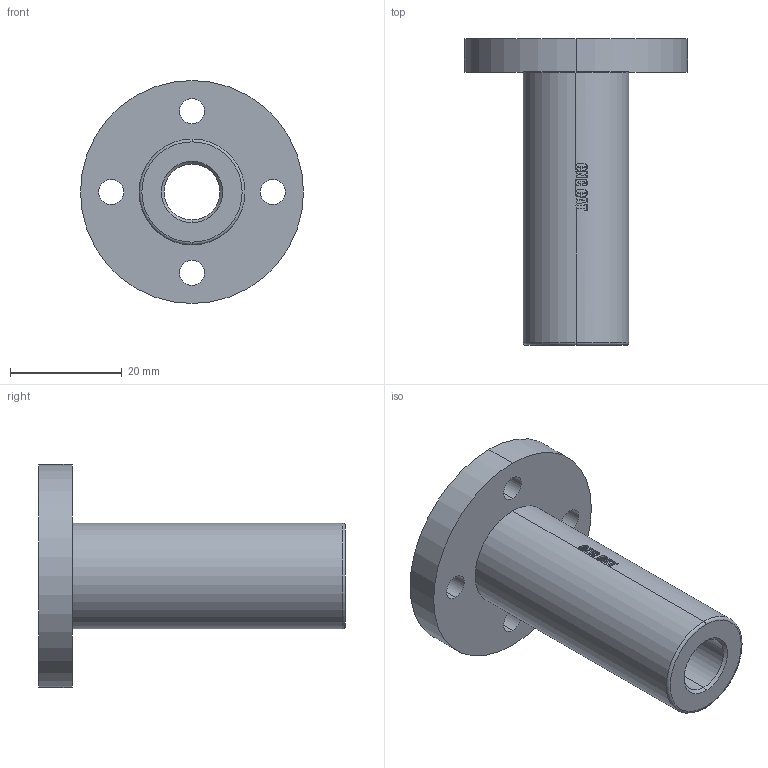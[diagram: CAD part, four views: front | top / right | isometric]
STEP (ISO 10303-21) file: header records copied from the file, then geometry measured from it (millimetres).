
FILE_DESCRIPTION (( 'STEP AP203' ), '1' );
FILE_NAME ('LMF10LUU.STEP', '2017-08-10T13:15:01', ( '' ), ( '' ), 'SwSTEP 2.0', 'SolidWorks 2017', '' );
FILE_SCHEMA (( 'CONFIG_CONTROL_DESIGN' ));
Length unit declared in the file: millimetre
Products named in the file (1): LMF10LUU
Bounding box: 40 x 55 x 40 mm (x, y, z)
Volume: 16720.9 mm3; surface area: 7968.2 mm2
Topology: 1 solids, 1 shells, 110 faces, 304 edges, 198 vertices
Faces by surface type: plane 48, bspline 32, cylinder 26, cone 2, torus 2
Entity records: 7282 total; most frequent: CARTESIAN_POINT 4646, ORIENTED_EDGE 608, DIRECTION 421, EDGE_CURVE 304, VERTEX_POINT 198, AXIS2_PLACEMENT_3D 165, B_SPLINE_CURVE_WITH_KNOTS 127, EDGE_LOOP 122
